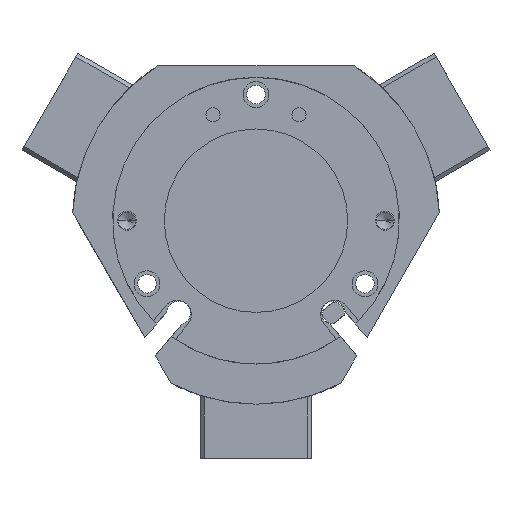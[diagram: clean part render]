
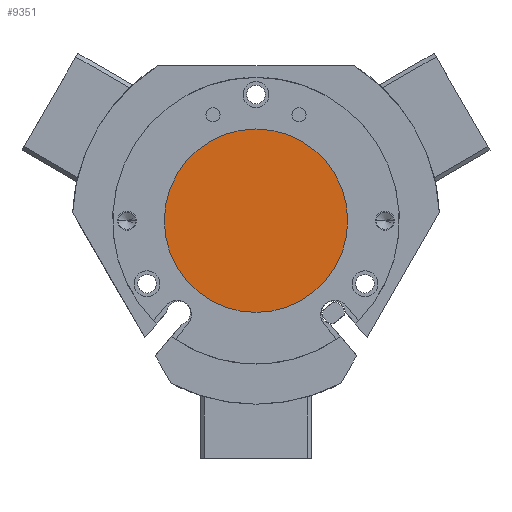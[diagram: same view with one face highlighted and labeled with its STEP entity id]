
A CAD part, front view. The second image highlights one B-rep face of the part: STEP entity #9351.
In plain terms, the highlighted planar face has unit normal (0, -1, 0) as drawn and (0, 1, 0) by its records, which use the part's own axes.
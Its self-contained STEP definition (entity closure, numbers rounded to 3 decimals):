
#474 = VERTEX_POINT ( 'NONE', #8157 ) ;
#865 = DIRECTION ( 'NONE',  ( 0., 1., 0. ) ) ;
#1461 = FACE_OUTER_BOUND ( 'NONE', #6546, .T. ) ;
#2812 = CARTESIAN_POINT ( 'NONE',  ( 0., 3.5, 16. ) ) ;
#2860 = DIRECTION ( 'NONE',  ( 0., 1., 0. ) ) ;
#3373 = CIRCLE ( 'NONE', #9369, 16. ) ;
#4815 = EDGE_CURVE ( 'NONE', #474, #11249, #3373, .T. ) ;
#4832 = DIRECTION ( 'NONE',  ( 0., 1., 0. ) ) ;
#5025 = AXIS2_PLACEMENT_3D ( 'NONE', #11622, #4832, #11669 ) ;
#5427 = AXIS2_PLACEMENT_3D ( 'NONE', #6726, #865, #7717 ) ;
#6546 = EDGE_LOOP ( 'NONE', ( #9551, #10063 ) ) ;
#6726 = CARTESIAN_POINT ( 'NONE',  ( 0., 3.5, 0. ) ) ;
#7717 = DIRECTION ( 'NONE',  ( 0., 0., -1. ) ) ;
#8157 = CARTESIAN_POINT ( 'NONE',  ( 0., 3.5, -16. ) ) ;
#8220 = CIRCLE ( 'NONE', #5427, 16. ) ;
#8726 = CARTESIAN_POINT ( 'NONE',  ( 0., 3.5, 0. ) ) ;
#9351 = ADVANCED_FACE ( 'NONE', ( #1461 ), #10692, .T. ) ;
#9369 = AXIS2_PLACEMENT_3D ( 'NONE', #8726, #2860, #9707 ) ;
#9551 = ORIENTED_EDGE ( 'NONE', *, *, #4815, .T. ) ;
#9707 = DIRECTION ( 'NONE',  ( 0., 0., -1. ) ) ;
#10063 = ORIENTED_EDGE ( 'NONE', *, *, #12472, .T. ) ;
#10692 = PLANE ( 'NONE',  #5025 ) ;
#11249 = VERTEX_POINT ( 'NONE', #2812 ) ;
#11622 = CARTESIAN_POINT ( 'NONE',  ( 0., 3.5, 0. ) ) ;
#11669 = DIRECTION ( 'NONE',  ( 0., 0., 1. ) ) ;
#12472 = EDGE_CURVE ( 'NONE', #11249, #474, #8220, .T. ) ;
